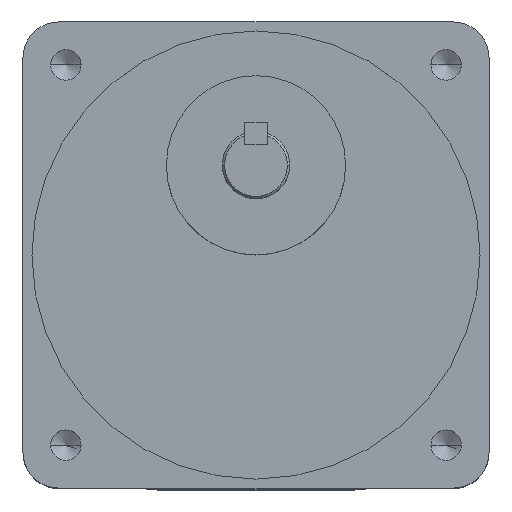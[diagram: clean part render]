
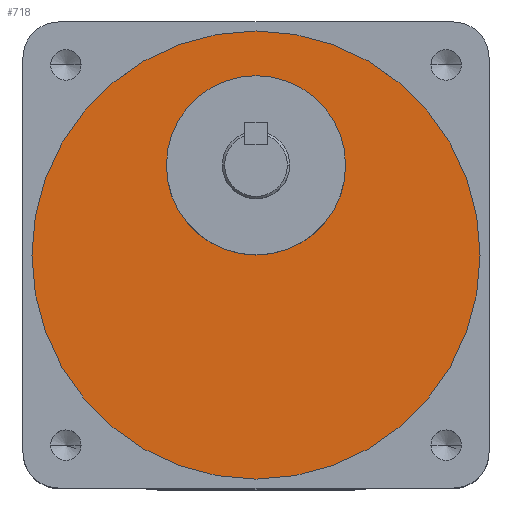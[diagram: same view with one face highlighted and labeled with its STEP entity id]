
A CAD part, top view. The second image highlights one B-rep face of the part: STEP entity #718.
In plain terms, the highlighted planar face has unit normal (0, 0, 1).
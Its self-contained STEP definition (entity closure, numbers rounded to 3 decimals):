
#18 = ORIENTED_EDGE ( 'NONE', *, *, #1818, .F. ) ;
#33 = DIRECTION ( 'NONE',  ( 1., 0., 0. ) ) ;
#58 = DIRECTION ( 'NONE',  ( 1., 0., 0. ) ) ;
#66 = DIRECTION ( 'NONE',  ( 0., 0., 1. ) ) ;
#117 = EDGE_LOOP ( 'NONE', ( #18, #2411 ) ) ;
#143 = CARTESIAN_POINT ( 'NONE',  ( -20., 20., -2. ) ) ;
#155 = CARTESIAN_POINT ( 'NONE',  ( 50., 0., -2. ) ) ;
#222 = CARTESIAN_POINT ( 'NONE',  ( 0., 20., -2. ) ) ;
#239 = CARTESIAN_POINT ( 'NONE',  ( 0., 0., -2. ) ) ;
#247 = AXIS2_PLACEMENT_3D ( 'NONE', #1848, #702, #2034 ) ;
#545 = VERTEX_POINT ( 'NONE', #2444 ) ;
#565 = CIRCLE ( 'NONE', #1944, 20. ) ;
#586 = CARTESIAN_POINT ( 'NONE',  ( 0., 0., -2. ) ) ;
#674 = CARTESIAN_POINT ( 'NONE',  ( -50., 0., -2. ) ) ;
#680 = VERTEX_POINT ( 'NONE', #143 ) ;
#692 = EDGE_LOOP ( 'NONE', ( #969, #980 ) ) ;
#702 = DIRECTION ( 'NONE',  ( 0., 0., 1. ) ) ;
#718 = ADVANCED_FACE ( 'NONE', ( #2268, #912 ), #1241, .T. ) ;
#834 = EDGE_CURVE ( 'NONE', #1063, #1178, #1225, .T. ) ;
#862 = AXIS2_PLACEMENT_3D ( 'NONE', #2006, #1100, #919 ) ;
#912 = FACE_OUTER_BOUND ( 'NONE', #692, .T. ) ;
#919 = DIRECTION ( 'NONE',  ( 1., 0., 0. ) ) ;
#969 = ORIENTED_EDGE ( 'NONE', *, *, #834, .T. ) ;
#980 = ORIENTED_EDGE ( 'NONE', *, *, #2299, .T. ) ;
#1018 = CIRCLE ( 'NONE', #2107, 50. ) ;
#1063 = VERTEX_POINT ( 'NONE', #155 ) ;
#1100 = DIRECTION ( 'NONE',  ( 0., 0., 1. ) ) ;
#1178 = VERTEX_POINT ( 'NONE', #674 ) ;
#1225 = CIRCLE ( 'NONE', #1635, 50. ) ;
#1241 = PLANE ( 'NONE',  #862 ) ;
#1404 = DIRECTION ( 'NONE',  ( 1., 0., 0. ) ) ;
#1477 = DIRECTION ( 'NONE',  ( 0., 0., 1. ) ) ;
#1635 = AXIS2_PLACEMENT_3D ( 'NONE', #586, #1477, #33 ) ;
#1818 = EDGE_CURVE ( 'NONE', #680, #545, #565, .T. ) ;
#1848 = CARTESIAN_POINT ( 'NONE',  ( 0., 20., -2. ) ) ;
#1879 = EDGE_CURVE ( 'NONE', #545, #680, #1909, .T. ) ;
#1909 = CIRCLE ( 'NONE', #247, 20. ) ;
#1944 = AXIS2_PLACEMENT_3D ( 'NONE', #222, #2259, #1404 ) ;
#2006 = CARTESIAN_POINT ( 'NONE',  ( 0., 0., -2. ) ) ;
#2034 = DIRECTION ( 'NONE',  ( 1., 0., 0. ) ) ;
#2107 = AXIS2_PLACEMENT_3D ( 'NONE', #239, #66, #58 ) ;
#2259 = DIRECTION ( 'NONE',  ( 0., 0., 1. ) ) ;
#2268 = FACE_BOUND ( 'NONE', #117, .T. ) ;
#2299 = EDGE_CURVE ( 'NONE', #1178, #1063, #1018, .T. ) ;
#2411 = ORIENTED_EDGE ( 'NONE', *, *, #1879, .F. ) ;
#2444 = CARTESIAN_POINT ( 'NONE',  ( 20., 20., -2. ) ) ;
